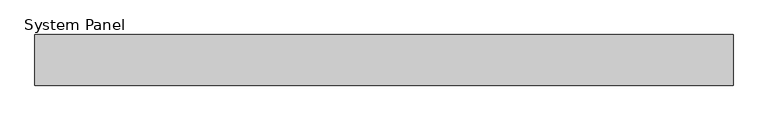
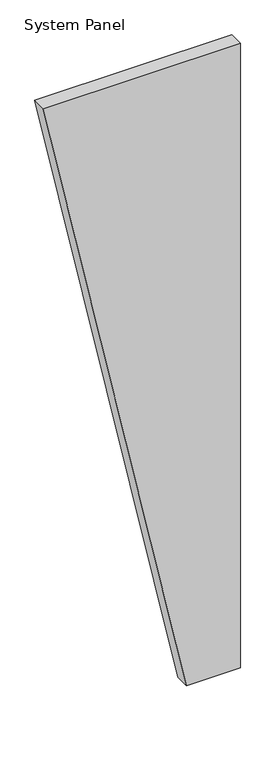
"""IFC4 building model written with IfcOpenShell, lengths in millimetres: plate geometry, System Panel : Inspire 80mm Vertical - Plain RHEA-PIR."""

from ifc_helpers import new_model, si_unit, frame, origin, place, context, project, spatial, polyline, outline, extrude, source, transform, mapped, element, save


def system_panel_80eadf60(model_context):
    return source(origin(), model_context, "Body", "SweptSolid", [
        extrude(outline(polyline([(0.0, 250.0), (0.0, 550.0), (3679.9704237, 550.0), (3679.9704237, -550.0), (0.0, 250.0)])), frame((0.0, -80.0, 0.0), z_axis=(0.0, 1.0, 0.0), x_axis=(0.0, 0.0, 1.0)), (0.0, 0.0, 1.0), 80.0),
    ])


if __name__ == "__main__":
    model = new_model("IFC4")
    model_context = context("Model", 3, world=origin())
    ifc_project = project(units=[si_unit("LENGTHUNIT", "METRE", prefix="MILLI")], contexts=[model_context])
    site = spatial("IfcSite", under=ifc_project)
    building = spatial("IfcBuilding", under=site)
    placement = place(None, origin())
    system_panel_shape = system_panel_80eadf60(model_context)
    element("IfcPlate", 1, ObjectType="System Panel : Inspire 80mm Vertical - Plain RHEA-PIR", at=placement, inside=building, context=model_context, shape_type="MappedRepresentation", body=[
        mapped(system_panel_shape, transform((0.0, 0.0, 0.0), x_axis=(1.0, 0.0, 0.0), y_axis=(0.0, 1.0, 0.0), z_axis=(0.0, 0.0, 1.0))),
    ])
    save(model, "model.ifc")
